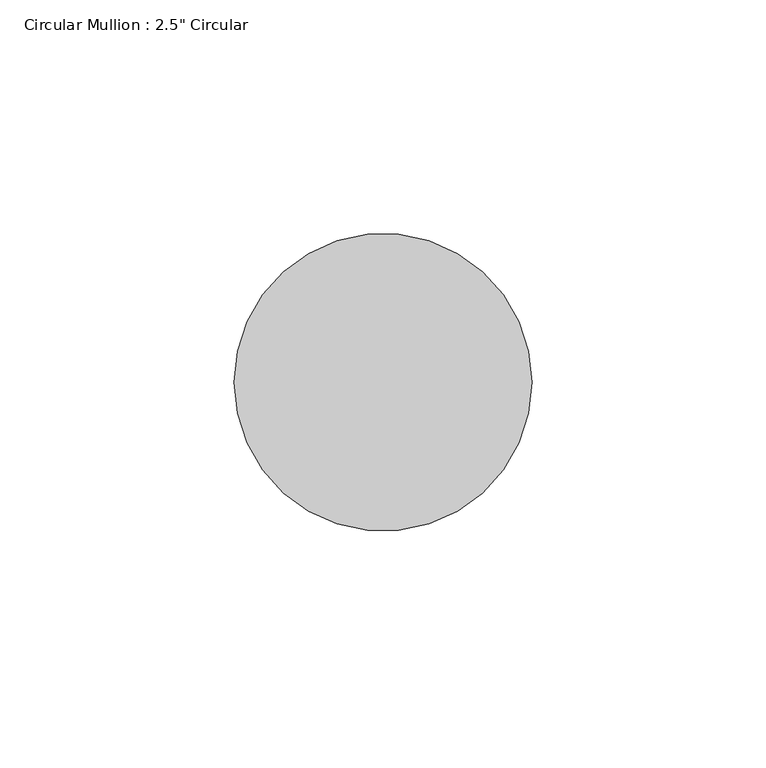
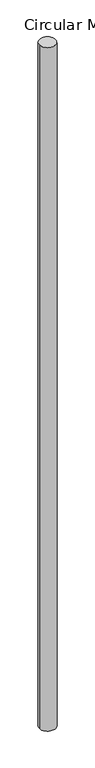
"""IFC4 building model written with IfcOpenShell, lengths in millimetres: member geometry."""

from ifc_helpers import new_model, si_unit, point, frame, origin, origin_2d, place, context, project, spatial, circle_curve, trimmed, segment, composite_curve, outline, extrude, source, transform, mapped, element, save


def member_25a058d1(model_context):
    return source(origin(), model_context, "Body", "SweptSolid", [
        extrude(outline(composite_curve([segment(trimmed(circle_curve(origin_2d(), 31.75), [point((31.75, 0.0))], [point((-31.75, 0.0))], False, "CARTESIAN"), True, "CONTINUOUS"), segment(trimmed(circle_curve(origin_2d(), 31.75), [point((-31.75, 0.0))], [point((31.75, 0.0))], False, "CARTESIAN"), True, "CONTINUOUS")], self_intersect=False)), frame((0.0, 0.0, -2831.1645308), z_axis=(0.0, 0.0, 1.0), x_axis=(1.0, 0.0, 0.0)), (0.0, 0.0, 1.0), 2831.1645308),
    ])


if __name__ == "__main__":
    model = new_model("IFC4")
    model_context = context("Model", 3, world=origin())
    ifc_project = project(units=[si_unit("LENGTHUNIT", "METRE", prefix="MILLI")], contexts=[model_context])
    site = spatial("IfcSite", under=ifc_project)
    building = spatial("IfcBuilding", under=site)
    placement = place(None, origin())
    member_shape = member_25a058d1(model_context)
    element("IfcMember", 1, ObjectType="Circular Mullion : 2.5\" Circular", at=placement, inside=building, context=model_context, shape_type="MappedRepresentation", body=[
        mapped(member_shape, transform((0.0, 0.0, 0.0), x_axis=(1.0, 0.0, 0.0), y_axis=(0.0, 1.0, 0.0), z_axis=(0.0, 0.0, 1.0))),
    ])
    save(model, "model.ifc")
